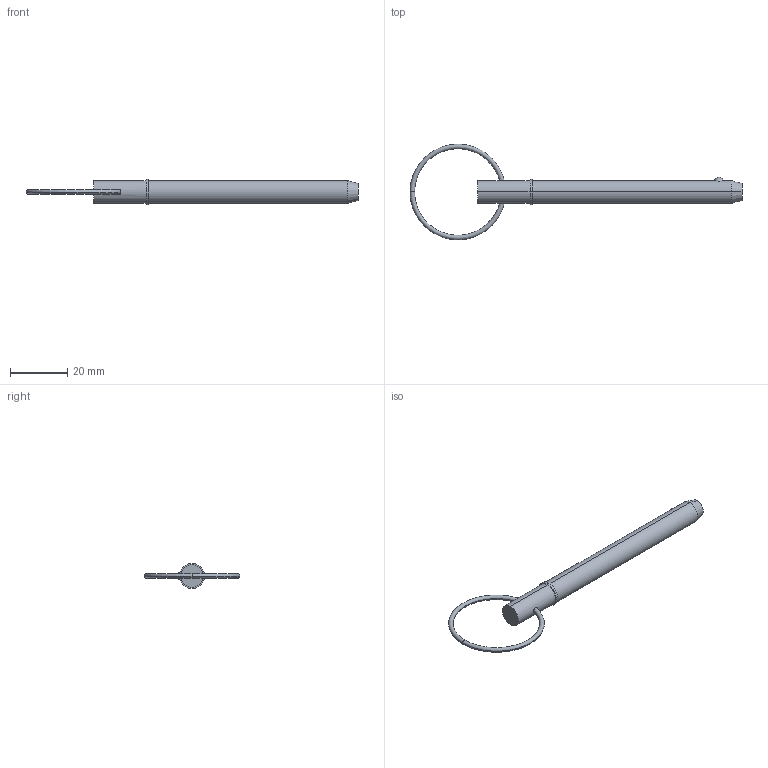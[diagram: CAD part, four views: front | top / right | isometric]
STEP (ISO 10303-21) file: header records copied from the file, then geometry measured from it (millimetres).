
FILE_DESCRIPTION (( 'STEP AP203' ), '1' );
FILE_NAME ('33016.W3125.step', '2024-11-07T11:03:48', ( '' ), ( '' ), 'SwSTEP 2.0', 'SolidWorks 2019', '' );
FILE_SCHEMA (( 'CONFIG_CONTROL_DESIGN' ));
Length unit declared in the file: millimetre
Products named in the file (3): 33016.W3125; Part1_33016.W3125; Part2_33016.W3125
Assembly tree (2 placements, depth 2):
  33016.W3125
    Part1_33016.W3125
    Part2_33016.W3125
Bounding box: 115.62 x 33.34 x 8.73 mm (x, y, z)
Volume: 4703.8 mm3; surface area: 2934 mm2
Topology: 2 solids, 2 shells, 22 faces, 43 edges, 26 vertices
Faces by surface type: torus 8, cylinder 6, plane 4, sphere 2, cone 2
Entity records: 989 total; most frequent: CARTESIAN_POINT 212, DIRECTION 120, ORIENTED_EDGE 86, AXIS2_PLACEMENT_3D 56, EDGE_CURVE 43, CIRCLE 29, EDGE_LOOP 27, VERTEX_POINT 26
